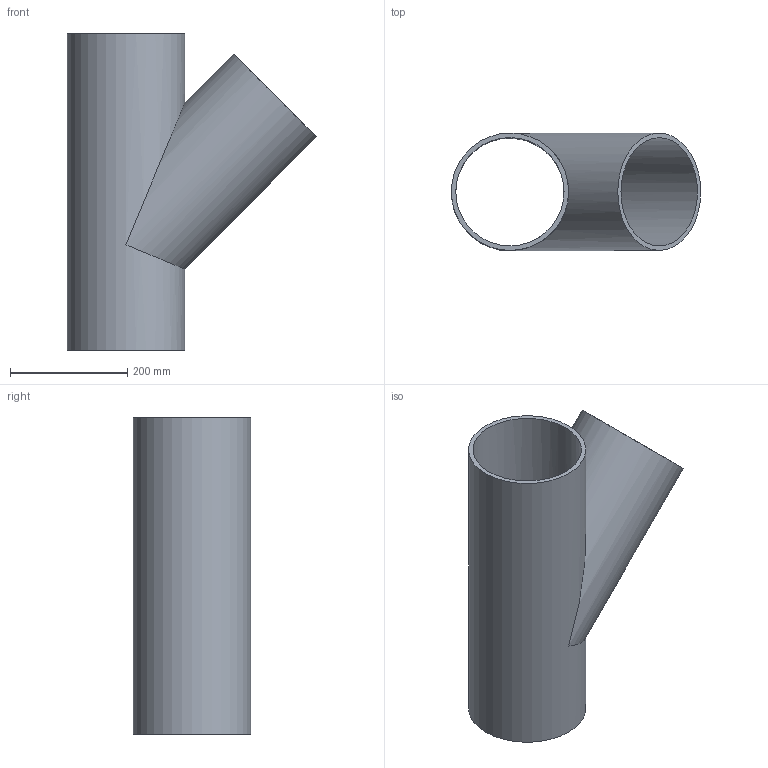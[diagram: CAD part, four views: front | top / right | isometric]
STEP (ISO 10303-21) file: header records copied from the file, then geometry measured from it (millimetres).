
FILE_DESCRIPTION(/* description */ (''),/* implementation_level */ '2;1');
FILE_NAME(/* name */ 'C:\Planerdaten\Export PLA\PRO_101557\stp\370146.stp',/* time_stamp */ '2021-09-30T15:09:01+02:00',/* author */ ('JANAN'),/* organization */ (''),/* preprocessor_version */ 'ST-DEVELOPER v16.13',/* originating_system */ 'Autodesk Inventor 2018',/* authorisation */ '');
FILE_SCHEMA (('AUTOMOTIVE_DESIGN { 1 0 10303 214 3 1 1 }'));
Length unit declared in the file: millimetre
Products named in the file (1): tmpE4A.tmp
Bounding box: 425.27 x 200 x 540 mm (x, y, z)
Volume: 3380811.6 mm3; surface area: 891864.5 mm2
Topology: 1 solids, 1 shells, 7 faces, 19 edges, 14 vertices
Faces by surface type: cylinder 4, plane 3
Full cylindrical faces by diameter (mm): 184.6 x2, 200 x2
Entity records: 228 total; most frequent: DIRECTION 36, CARTESIAN_POINT 28, ORIENTED_EDGE 20, AXIS2_PLACEMENT_3D 18, EDGE_LOOP 16, VERTEX_POINT 10, EDGE_CURVE 10, FACE_BOUND 9
